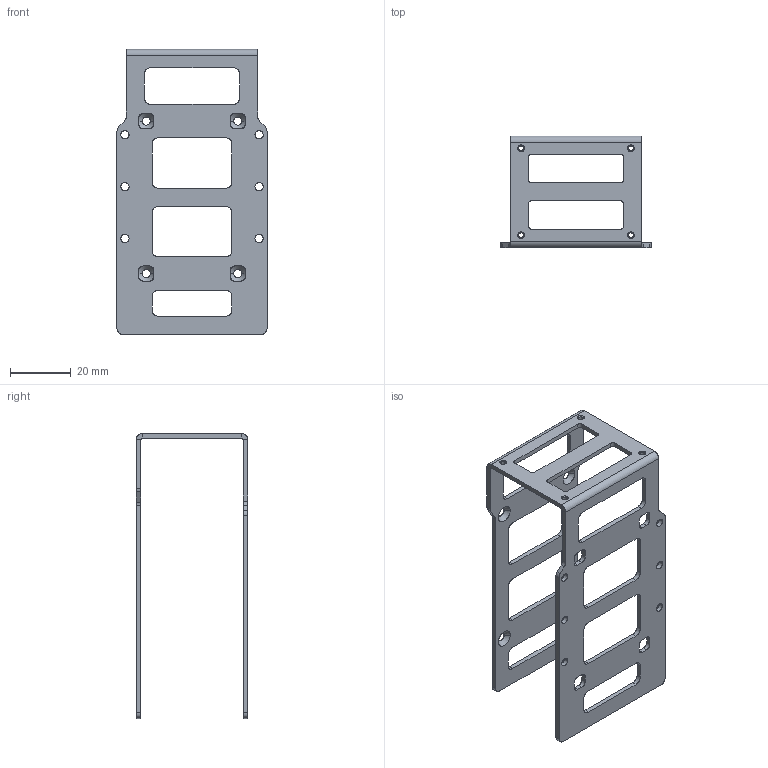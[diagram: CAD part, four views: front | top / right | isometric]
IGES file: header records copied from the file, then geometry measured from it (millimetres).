
Global section: file name: C:\Users\Knabe\Documents\Classes\8 Semester 8\DARwIn\Deliverables\DARwIn OP\DARwIn OP Part Files\OP 3D CAD Files\3D IGS\7_FR07_E130.igs; native system: NX V7.0; preprocessor: SIEMENS PLM Software NX 7.0; date: 20110525.180213; units: millimetre
Bounding box: 49.2 x 36.5 x 93.5 mm (x, y, z)
Surface area: 14000.3 mm2 (no closed solid volume)
Topology: 0 solids, 0 shells, 198 faces, 1404 edges, 1404 vertices
Faces by surface type: bspline 198
